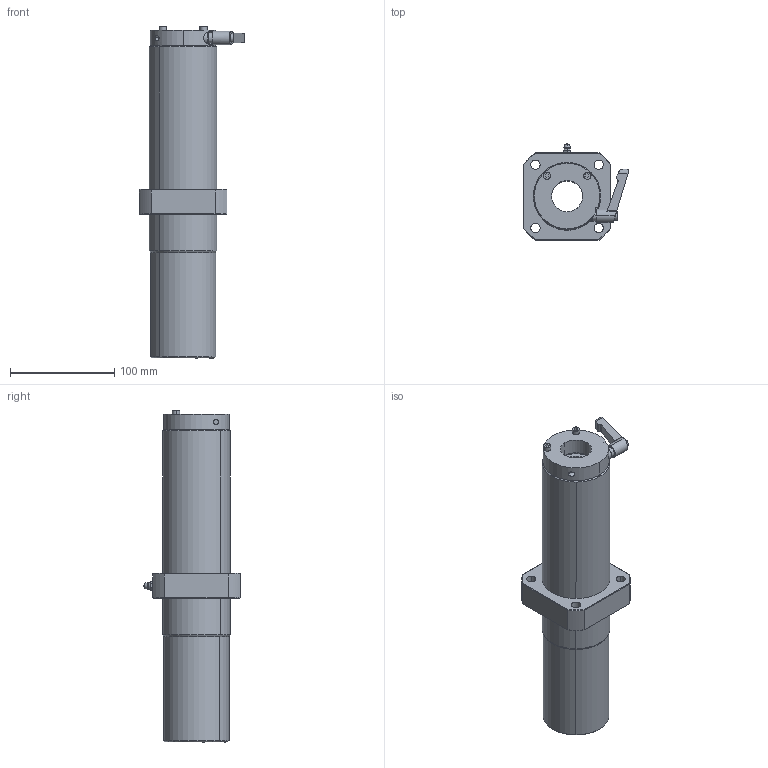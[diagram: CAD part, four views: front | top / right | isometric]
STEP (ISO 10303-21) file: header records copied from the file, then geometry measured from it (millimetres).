
FILE_DESCRIPTION (( 'STEP AP214' ), '1' );
FILE_NAME ('LFWLC30-C.STEP', '2023-06-27T02:52:34', ( '' ), ( '' ), 'SwSTEP 2.0', 'SolidWorks 2019', '' );
FILE_SCHEMA (( 'AUTOMOTIVE_DESIGN' ));
Length unit declared in the file: millimetre
Products named in the file (3): LFWLC30; “ÁSCK3015CO-S4.5; LFWLC30-C
Assembly tree (2 placements, depth 2):
  LFWLC30-C
    LFWLC30
    “ÁSCK3015CO-S4.5
Bounding box: 101.1 x 92.4 x 319 mm (x, y, z)
Volume: 874498.6 mm3; surface area: 128640.1 mm2
Topology: 3 solids, 9 shells, 265 faces, 655 edges, 407 vertices
Faces by surface type: cylinder 88, plane 80, bspline 47, cone 38, torus 8, sphere 4
Entity records: 11511 total; most frequent: CARTESIAN_POINT 2454, DIRECTION 1363, ORIENTED_EDGE 1306, EDGE_CURVE 653, AXIS2_PLACEMENT_3D 565, VERTEX_POINT 406, CIRCLE 342, EDGE_LOOP 313
